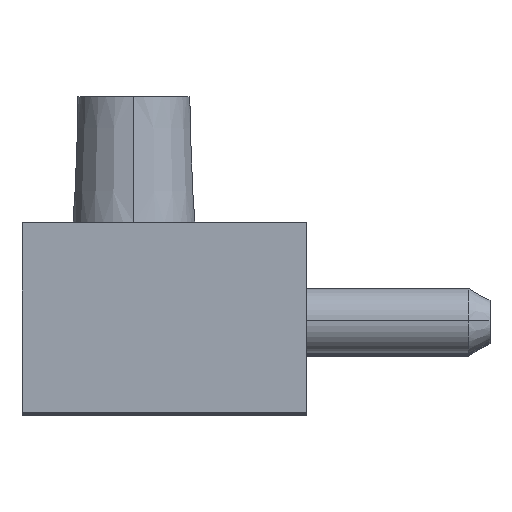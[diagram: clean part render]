
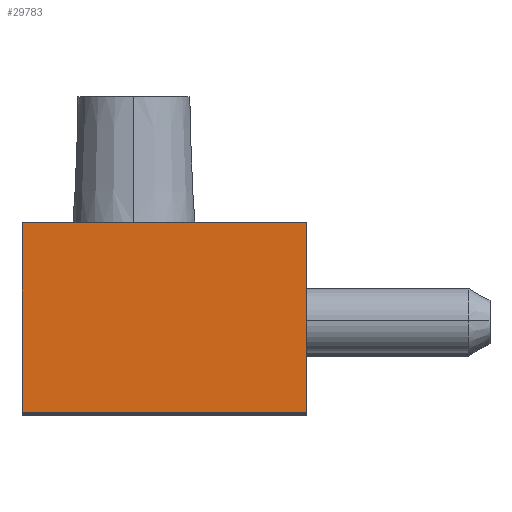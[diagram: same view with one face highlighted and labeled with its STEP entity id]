
A CAD part, top view. The second image highlights one B-rep face of the part: STEP entity #29783.
In plain terms, the highlighted planar face has unit normal (0, 0, 1).
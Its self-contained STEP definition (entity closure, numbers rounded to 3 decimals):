
#11683 = CARTESIAN_POINT ( 'NONE',  ( -7., 0., 0. ) ) ;
#11684 = DIRECTION ( 'NONE',  ( 1., 0., 0. ) ) ;
#11685 = VECTOR ( 'NONE', #11684, 1000. ) ;
#11686 = CARTESIAN_POINT ( 'NONE',  ( 0., 0., 0. ) ) ;
#11687 = LINE ( 'NONE', #11686, #11685 ) ;
#11688 = CARTESIAN_POINT ( 'NONE',  ( 7., 0., 0. ) ) ;
#13039 = CARTESIAN_POINT ( 'NONE',  ( -7., 0., 0. ) ) ;
#13040 = AXIS2_PLACEMENT_3D ( 'NONE', #13039, #13105, #13104 ) ;
#13041 = PLANE ( 'NONE',  #13040 ) ;
#13042 = FACE_OUTER_BOUND ( 'NONE', #29784, .T. ) ;
#13043 = DIRECTION ( 'NONE',  ( 0., 1., 0. ) ) ;
#13044 = VECTOR ( 'NONE', #13043, 1000. ) ;
#13045 = CARTESIAN_POINT ( 'NONE',  ( 7., 4.65, 0. ) ) ;
#13046 = LINE ( 'NONE', #13045, #13044 ) ;
#13047 = CARTESIAN_POINT ( 'NONE',  ( 7., 9.3, 0. ) ) ;
#13098 = CARTESIAN_POINT ( 'NONE',  ( -7., 9.3, 0. ) ) ;
#13100 = DIRECTION ( 'NONE',  ( 0., -1., 0. ) ) ;
#13101 = VECTOR ( 'NONE', #13100, 1000. ) ;
#13102 = CARTESIAN_POINT ( 'NONE',  ( -7., 4.65, 0. ) ) ;
#13103 = LINE ( 'NONE', #13102, #13101 ) ;
#13104 = DIRECTION ( 'NONE',  ( 1., 0., 0. ) ) ;
#13105 = DIRECTION ( 'NONE',  ( 0., 0., 1. ) ) ;
#13167 = DIRECTION ( 'NONE',  ( -1., 0., 0. ) ) ;
#13168 = VECTOR ( 'NONE', #13167, 1000. ) ;
#13169 = CARTESIAN_POINT ( 'NONE',  ( -7., 9.3, 0. ) ) ;
#13170 = LINE ( 'NONE', #13169, #13168 ) ;
#28988 = VERTEX_POINT ( 'NONE', #11688 ) ;
#28990 = EDGE_CURVE ( 'NONE', #28991, #28988, #11687, .T. ) ;
#28991 = VERTEX_POINT ( 'NONE', #11683 ) ;
#29780 = VERTEX_POINT ( 'NONE', #13047 ) ;
#29782 = EDGE_CURVE ( 'NONE', #28988, #29780, #13046, .T. ) ;
#29783 = ADVANCED_FACE ( 'NONE', ( #13042 ), #13041, .T. ) ;
#29784 = EDGE_LOOP ( 'NONE', ( #29785, #29838, #29839, #29840 ) ) ;
#29785 = ORIENTED_EDGE ( 'NONE', *, *, #29786, .T. ) ;
#29786 = EDGE_CURVE ( 'NONE', #29788, #28991, #13103, .T. ) ;
#29788 = VERTEX_POINT ( 'NONE', #13098 ) ;
#29838 = ORIENTED_EDGE ( 'NONE', *, *, #28990, .T. ) ;
#29839 = ORIENTED_EDGE ( 'NONE', *, *, #29782, .T. ) ;
#29840 = ORIENTED_EDGE ( 'NONE', *, *, #29841, .T. ) ;
#29841 = EDGE_CURVE ( 'NONE', #29780, #29788, #13170, .T. ) ;
